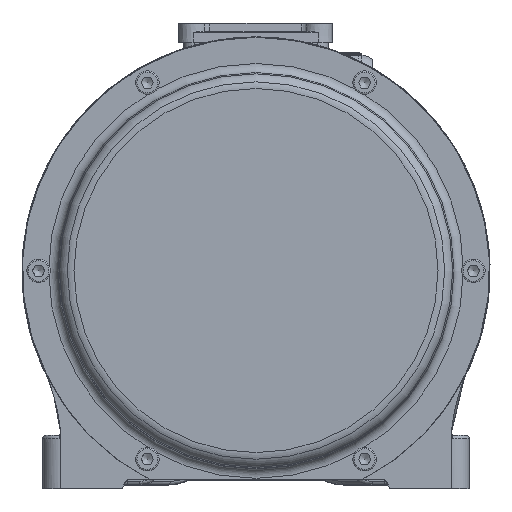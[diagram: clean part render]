
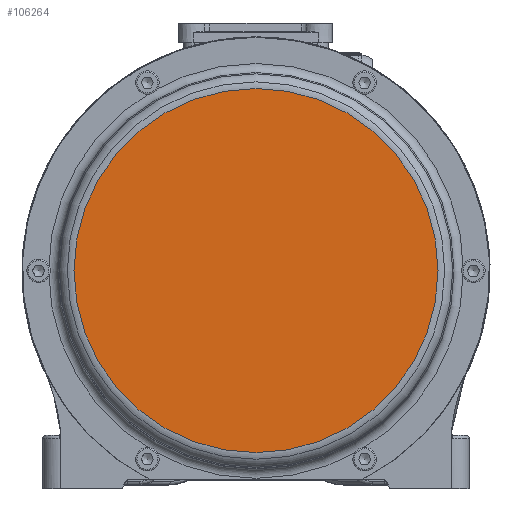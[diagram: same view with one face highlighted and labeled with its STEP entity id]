
A CAD part, top view. The second image highlights one B-rep face of the part: STEP entity #106264.
In plain terms, the highlighted planar face has unit normal (0, 0, 1).
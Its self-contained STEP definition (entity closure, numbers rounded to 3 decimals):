
#27292=FACE_OUTER_BOUND('',#33286,.T.);
#33286=EDGE_LOOP('',(#76226));
#39091=CIRCLE('',#113759,100.5);
#43083=VERTEX_POINT('',#257979);
#55181=EDGE_CURVE('',#43083,#43083,#39091,.T.);
#76226=ORIENTED_EDGE('',*,*,#55181,.F.);
#95658=PLANE('',#113762);
#106264=ADVANCED_FACE('',(#27292),#95658,.T.);
#113759=AXIS2_PLACEMENT_3D('',#257981,#126256,#126257);
#113762=AXIS2_PLACEMENT_3D('',#257984,#126262,#126263);
#126256=DIRECTION('center_axis',(0.,0.,
-1.));
#126257=DIRECTION('ref_axis',(0.,1.,0.));
#126262=DIRECTION('center_axis',(0.,0.,
1.));
#126263=DIRECTION('ref_axis',(1.,0.,0.));
#257979=CARTESIAN_POINT('',(38.728,-27.939,221.8));
#257981=CARTESIAN_POINT('Origin',(-61.772,-27.939,221.8));
#257984=CARTESIAN_POINT('Origin',(-61.772,22.311,221.8));
